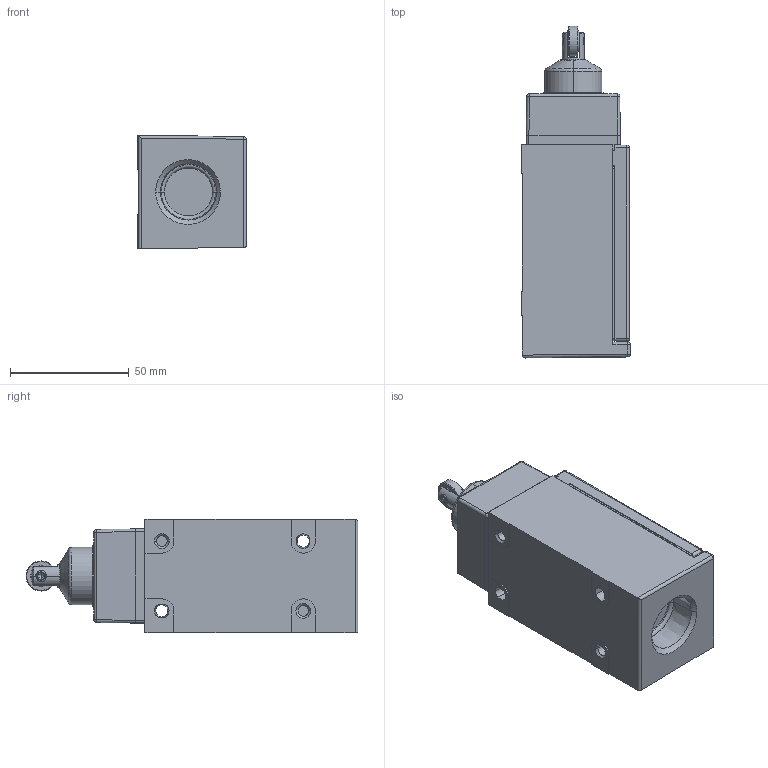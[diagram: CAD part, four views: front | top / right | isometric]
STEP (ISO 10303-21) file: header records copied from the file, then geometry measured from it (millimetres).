
FILE_DESCRIPTION((''),'2;1');
FILE_NAME('LSD4L','2012-12-06T',('E522935'),(''),'PRO/ENGINEER BY PARAMETRIC TECHNOLOGY CORPORATION, 2009460','PRO/ENGINEER BY PARAMETRIC TECHNOLOGY CORPORATION, 2009460','');
FILE_SCHEMA(('CONFIG_CONTROL_DESIGN'));
Length unit declared in the file: inch
Products named in the file (1): LSD4L
Bounding box: 45.72 x 139.66 x 47.62 mm (x, y, z)
Volume: 218632.6 mm3; surface area: 30612.8 mm2
Topology: 1 solids, 2 shells, 729 faces, 1930 edges, 1221 vertices
Faces by surface type: plane 421, cylinder 225, cone 44, sphere 23, torus 14, bspline 2
Entity records: 23574 total; most frequent: CARTESIAN_POINT 5372, ORIENTED_EDGE 3856, DIRECTION 3808, EDGE_CURVE 1928, AXIS2_PLACEMENT_3D 1375, VERTEX_POINT 1221, VECTOR 1058, LINE 1058
